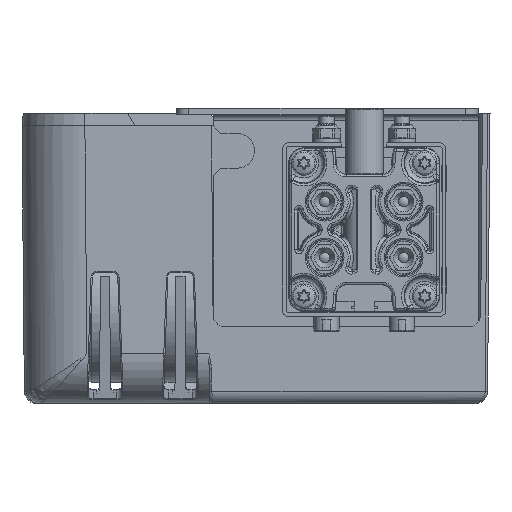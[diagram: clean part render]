
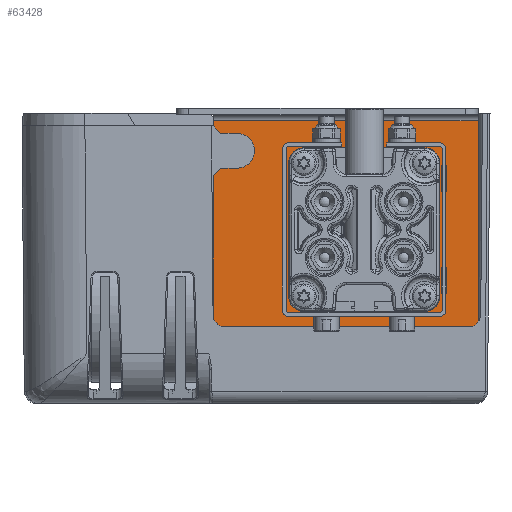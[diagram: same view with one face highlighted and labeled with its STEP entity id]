
A CAD part, left-side view. The second image highlights one B-rep face of the part: STEP entity #63428.
In plain terms, the highlighted planar face has unit normal (-1, 0, 0) as drawn and (0, 0, 1) by its records, which use the part's own axes.
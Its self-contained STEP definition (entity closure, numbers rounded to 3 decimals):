
#7460=LINE('',#131620,#11194);
#7463=LINE('',#131626,#11197);
#7466=LINE('',#131632,#11200);
#7469=LINE('',#131637,#11203);
#7472=LINE('',#131644,#11206);
#7475=LINE('',#131650,#11209);
#7478=LINE('',#131656,#11212);
#7481=LINE('',#131661,#11215);
#7484=LINE('',#131668,#11218);
#7487=LINE('',#131674,#11221);
#7490=LINE('',#131680,#11224);
#7493=LINE('',#131685,#11227);
#7508=LINE('',#131738,#11242);
#7509=LINE('',#131741,#11243);
#7510=LINE('',#131743,#11244);
#7511=LINE('',#131745,#11245);
#7512=LINE('',#131754,#11246);
#7513=LINE('',#131757,#11247);
#7514=LINE('',#131759,#11248);
#7515=LINE('',#131761,#11249);
#7516=LINE('',#131763,#11250);
#7517=LINE('',#131765,#11251);
#7518=LINE('',#131767,#11252);
#7519=LINE('',#131769,#11253);
#7520=LINE('',#131771,#11254);
#7521=LINE('',#131773,#11255);
#7522=LINE('',#131775,#11256);
#11194=VECTOR('',#77548,1000.);
#11197=VECTOR('',#77553,1000.);
#11200=VECTOR('',#77558,1000.);
#11203=VECTOR('',#77563,1000.);
#11206=VECTOR('',#77568,1000.);
#11209=VECTOR('',#77573,1000.);
#11212=VECTOR('',#77578,1000.);
#11215=VECTOR('',#77583,1000.);
#11218=VECTOR('',#77588,1000.);
#11221=VECTOR('',#77593,1000.);
#11224=VECTOR('',#77598,1000.);
#11227=VECTOR('',#77603,1000.);
#11242=VECTOR('',#77646,1000.);
#11243=VECTOR('',#77647,1000.);
#11244=VECTOR('',#77648,1000.);
#11245=VECTOR('',#77649,1000.);
#11246=VECTOR('',#77658,1000.);
#11247=VECTOR('',#77659,1000.);
#11248=VECTOR('',#77660,1000.);
#11249=VECTOR('',#77661,1000.);
#11250=VECTOR('',#77662,1000.);
#11251=VECTOR('',#77663,1000.);
#11252=VECTOR('',#77664,1000.);
#11253=VECTOR('',#77665,1000.);
#11254=VECTOR('',#77666,1000.);
#11255=VECTOR('',#77667,1000.);
#11256=VECTOR('',#77668,1000.);
#13587=PLANE('',#68007);
#22456=ORIENTED_EDGE('',*,*,#37333,.F.);
#22457=ORIENTED_EDGE('',*,*,#37330,.F.);
#22458=ORIENTED_EDGE('',*,*,#37339,.F.);
#22459=ORIENTED_EDGE('',*,*,#37336,.F.);
#22460=ORIENTED_EDGE('',*,*,#37345,.F.);
#22461=ORIENTED_EDGE('',*,*,#37342,.F.);
#22462=ORIENTED_EDGE('',*,*,#37351,.F.);
#22463=ORIENTED_EDGE('',*,*,#37348,.F.);
#22464=ORIENTED_EDGE('',*,*,#37357,.F.);
#22465=ORIENTED_EDGE('',*,*,#37354,.F.);
#22466=ORIENTED_EDGE('',*,*,#37363,.F.);
#22467=ORIENTED_EDGE('',*,*,#37360,.F.);
#22468=ORIENTED_EDGE('',*,*,#37388,.F.);
#22469=ORIENTED_EDGE('',*,*,#37389,.F.);
#22470=ORIENTED_EDGE('',*,*,#37390,.F.);
#22471=ORIENTED_EDGE('',*,*,#37391,.F.);
#22472=ORIENTED_EDGE('',*,*,#37392,.F.);
#22473=ORIENTED_EDGE('',*,*,#37393,.F.);
#22474=ORIENTED_EDGE('',*,*,#37394,.F.);
#22475=ORIENTED_EDGE('',*,*,#37395,.F.);
#22476=ORIENTED_EDGE('',*,*,#37396,.F.);
#22477=ORIENTED_EDGE('',*,*,#37397,.T.);
#22478=ORIENTED_EDGE('',*,*,#37398,.F.);
#22479=ORIENTED_EDGE('',*,*,#37399,.F.);
#22480=ORIENTED_EDGE('',*,*,#37400,.F.);
#22481=ORIENTED_EDGE('',*,*,#37401,.T.);
#22482=ORIENTED_EDGE('',*,*,#37402,.F.);
#22483=ORIENTED_EDGE('',*,*,#37403,.T.);
#22484=ORIENTED_EDGE('',*,*,#37404,.F.);
#22485=ORIENTED_EDGE('',*,*,#37405,.T.);
#22486=ORIENTED_EDGE('',*,*,#37406,.F.);
#22487=ORIENTED_EDGE('',*,*,#37407,.F.);
#37330=EDGE_CURVE('',#45380,#45381,#7460,.T.);
#37333=EDGE_CURVE('',#45381,#45383,#7463,.T.);
#37336=EDGE_CURVE('',#45383,#45385,#7466,.T.);
#37339=EDGE_CURVE('',#45385,#45380,#7469,.T.);
#37342=EDGE_CURVE('',#45388,#45389,#7472,.T.);
#37345=EDGE_CURVE('',#45389,#45391,#7475,.T.);
#37348=EDGE_CURVE('',#45391,#45393,#7478,.T.);
#37351=EDGE_CURVE('',#45393,#45388,#7481,.T.);
#37354=EDGE_CURVE('',#45396,#45397,#7484,.T.);
#37357=EDGE_CURVE('',#45397,#45399,#7487,.T.);
#37360=EDGE_CURVE('',#45399,#45401,#7490,.T.);
#37363=EDGE_CURVE('',#45401,#45396,#7493,.T.);
#37388=EDGE_CURVE('',#45426,#45427,#7508,.T.);
#37389=EDGE_CURVE('',#45428,#45426,#7509,.T.);
#37390=EDGE_CURVE('',#45429,#45428,#7510,.T.);
#37391=EDGE_CURVE('',#45427,#45429,#7511,.T.);
#37392=EDGE_CURVE('',#45430,#45430,#49953,.T.);
#37393=EDGE_CURVE('',#45431,#45431,#49954,.T.);
#37394=EDGE_CURVE('',#45432,#45432,#49955,.T.);
#37395=EDGE_CURVE('',#45433,#45433,#49956,.T.);
#37396=EDGE_CURVE('',#45434,#45435,#7512,.T.);
#37397=EDGE_CURVE('',#45434,#45436,#7513,.F.);
#37398=EDGE_CURVE('',#45437,#45436,#7514,.T.);
#37399=EDGE_CURVE('',#45438,#45437,#7515,.T.);
#37400=EDGE_CURVE('',#45439,#45438,#7516,.T.);
#37401=EDGE_CURVE('',#45439,#45440,#7517,.T.);
#37402=EDGE_CURVE('',#45441,#45440,#7518,.T.);
#37403=EDGE_CURVE('',#45441,#45442,#7519,.T.);
#37404=EDGE_CURVE('',#45443,#45442,#7520,.T.);
#37405=EDGE_CURVE('',#45443,#45444,#7521,.F.);
#37406=EDGE_CURVE('',#45445,#45444,#7522,.T.);
#37407=EDGE_CURVE('',#45435,#45445,#49957,.F.);
#45380=VERTEX_POINT('',#131619);
#45381=VERTEX_POINT('',#131621);
#45383=VERTEX_POINT('',#131627);
#45385=VERTEX_POINT('',#131633);
#45388=VERTEX_POINT('',#131643);
#45389=VERTEX_POINT('',#131645);
#45391=VERTEX_POINT('',#131651);
#45393=VERTEX_POINT('',#131657);
#45396=VERTEX_POINT('',#131667);
#45397=VERTEX_POINT('',#131669);
#45399=VERTEX_POINT('',#131675);
#45401=VERTEX_POINT('',#131681);
#45426=VERTEX_POINT('',#131739);
#45427=VERTEX_POINT('',#131740);
#45428=VERTEX_POINT('',#131742);
#45429=VERTEX_POINT('',#131744);
#45430=VERTEX_POINT('',#131747);
#45431=VERTEX_POINT('',#131749);
#45432=VERTEX_POINT('',#131751);
#45433=VERTEX_POINT('',#131753);
#45434=VERTEX_POINT('',#131755);
#45435=VERTEX_POINT('',#131756);
#45436=VERTEX_POINT('',#131758);
#45437=VERTEX_POINT('',#131760);
#45438=VERTEX_POINT('',#131762);
#45439=VERTEX_POINT('',#131764);
#45440=VERTEX_POINT('',#131766);
#45441=VERTEX_POINT('',#131768);
#45442=VERTEX_POINT('',#131770);
#45443=VERTEX_POINT('',#131772);
#45444=VERTEX_POINT('',#131774);
#45445=VERTEX_POINT('',#131776);
#49953=CIRCLE('',#68008,3.4);
#49954=CIRCLE('',#68009,3.4);
#49955=CIRCLE('',#68010,3.4);
#49956=CIRCLE('',#68011,12.5);
#49957=CIRCLE('',#68012,6.9);
#53046=EDGE_LOOP('',(#22456,#22457,#22458,#22459));
#53047=EDGE_LOOP('',(#22460,#22461,#22462,#22463));
#53048=EDGE_LOOP('',(#22464,#22465,#22466,#22467));
#53049=EDGE_LOOP('',(#22468,#22469,#22470,#22471));
#53050=EDGE_LOOP('',(#22472));
#53051=EDGE_LOOP('',(#22473));
#53052=EDGE_LOOP('',(#22474));
#53053=EDGE_LOOP('',(#22475));
#53054=EDGE_LOOP('',(#22476,#22477,#22478,#22479,#22480,#22481,#22482,#22483,
#22484,#22485,#22486,#22487));
#57486=FACE_BOUND('',#53046,.T.);
#57487=FACE_BOUND('',#53047,.T.);
#57488=FACE_BOUND('',#53048,.T.);
#57489=FACE_BOUND('',#53049,.T.);
#57490=FACE_BOUND('',#53050,.T.);
#57491=FACE_BOUND('',#53051,.T.);
#57492=FACE_BOUND('',#53052,.T.);
#57493=FACE_BOUND('',#53053,.T.);
#57494=FACE_BOUND('',#53054,.T.);
#63428=ADVANCED_FACE('',(#57486,#57487,#57488,#57489,#57490,#57491,#57492,
#57493,#57494),#13587,.F.);
#68007=AXIS2_PLACEMENT_3D('',#131737,#77644,#77645);
#68008=AXIS2_PLACEMENT_3D('',#131746,#77650,#77651);
#68009=AXIS2_PLACEMENT_3D('',#131748,#77652,#77653);
#68010=AXIS2_PLACEMENT_3D('',#131750,#77654,#77655);
#68011=AXIS2_PLACEMENT_3D('',#131752,#77656,#77657);
#68012=AXIS2_PLACEMENT_3D('',#131777,#77669,#77670);
#77548=DIRECTION('',(0.,-1.,0.));
#77553=DIRECTION('',(1.,0.,0.));
#77558=DIRECTION('',(0.,1.,0.));
#77563=DIRECTION('',(-1.,0.,0.));
#77568=DIRECTION('',(0.,-1.,0.));
#77573=DIRECTION('',(1.,0.,0.));
#77578=DIRECTION('',(0.,1.,0.));
#77583=DIRECTION('',(-1.,0.,0.));
#77588=DIRECTION('',(0.,-1.,0.));
#77593=DIRECTION('',(1.,0.,0.));
#77598=DIRECTION('',(0.,1.,0.));
#77603=DIRECTION('',(-1.,0.,0.));
#77644=DIRECTION('',(0.,0.,-1.));
#77645=DIRECTION('',(-1.,0.,0.));
#77646=DIRECTION('',(1.,0.,0.));
#77647=DIRECTION('',(0.,-1.,0.));
#77648=DIRECTION('',(-1.,0.,0.));
#77649=DIRECTION('',(0.,1.,0.));
#77650=DIRECTION('',(0.,0.,1.));
#77651=DIRECTION('',(1.,0.,0.));
#77652=DIRECTION('',(0.,0.,1.));
#77653=DIRECTION('',(1.,0.,0.));
#77654=DIRECTION('',(0.,0.,1.));
#77655=DIRECTION('',(1.,0.,0.));
#77656=DIRECTION('',(0.,0.,1.));
#77657=DIRECTION('',(1.,0.,0.));
#77658=DIRECTION('',(1.,0.,0.));
#77659=DIRECTION('',(0.707,0.707,0.));
#77660=DIRECTION('',(0.,1.,0.));
#77661=DIRECTION('',(-1.,0.,0.));
#77662=DIRECTION('',(0.,1.,0.));
#77663=DIRECTION('',(1.,0.,0.));
#77664=DIRECTION('',(0.,-1.,0.));
#77665=DIRECTION('',(-1.,0.,0.));
#77666=DIRECTION('',(0.,1.,0.));
#77667=DIRECTION('',(-0.707,0.707,0.));
#77668=DIRECTION('',(-1.,0.,0.));
#77669=DIRECTION('',(0.,0.,-1.));
#77670=DIRECTION('',(-1.,0.,0.));
#131619=CARTESIAN_POINT('',(87.575,0.5,2.5));
#131620=CARTESIAN_POINT('',(87.575,0.5,2.5));
#131621=CARTESIAN_POINT('',(87.575,-9.85,2.5));
#131626=CARTESIAN_POINT('',(87.575,-9.85,2.5));
#131627=CARTESIAN_POINT('',(89.425,-9.85,2.5));
#131632=CARTESIAN_POINT('',(89.425,-9.85,2.5));
#131633=CARTESIAN_POINT('',(89.425,0.5,2.5));
#131637=CARTESIAN_POINT('',(89.425,0.5,2.5));
#131643=CARTESIAN_POINT('',(87.575,40.85,2.5));
#131644=CARTESIAN_POINT('',(87.575,40.85,2.5));
#131645=CARTESIAN_POINT('',(87.575,30.5,2.5));
#131650=CARTESIAN_POINT('',(87.575,30.5,2.5));
#131651=CARTESIAN_POINT('',(89.425,30.5,2.5));
#131656=CARTESIAN_POINT('',(89.425,30.5,2.5));
#131657=CARTESIAN_POINT('',(89.425,40.85,2.5));
#131661=CARTESIAN_POINT('',(89.425,40.85,2.5));
#131667=CARTESIAN_POINT('',(24.075,0.5,2.5));
#131668=CARTESIAN_POINT('',(24.075,0.5,2.5));
#131669=CARTESIAN_POINT('',(24.075,-9.85,2.5));
#131674=CARTESIAN_POINT('',(24.075,-9.85,2.5));
#131675=CARTESIAN_POINT('',(25.925,-9.85,2.5));
#131680=CARTESIAN_POINT('',(25.925,-9.85,2.5));
#131681=CARTESIAN_POINT('',(25.925,0.5,2.5));
#131685=CARTESIAN_POINT('',(25.925,0.5,2.5));
#131737=CARTESIAN_POINT('',(102.,62.25,2.5));
#131738=CARTESIAN_POINT('',(24.075,30.5,2.5));
#131739=CARTESIAN_POINT('',(24.075,30.5,2.5));
#131740=CARTESIAN_POINT('',(25.925,30.5,2.5));
#131741=CARTESIAN_POINT('',(24.075,40.85,2.5));
#131742=CARTESIAN_POINT('',(24.075,40.85,2.5));
#131743=CARTESIAN_POINT('',(25.925,40.85,2.5));
#131744=CARTESIAN_POINT('',(25.925,40.85,2.5));
#131745=CARTESIAN_POINT('',(25.925,30.5,2.5));
#131746=CARTESIAN_POINT('',(56.75,-9.9,2.5));
#131747=CARTESIAN_POINT('',(60.15,-9.9,2.5));
#131748=CARTESIAN_POINT('',(78.747,28.2,2.5));
#131749=CARTESIAN_POINT('',(82.147,28.2,2.5));
#131750=CARTESIAN_POINT('',(34.753,28.2,2.5));
#131751=CARTESIAN_POINT('',(38.153,28.2,2.5));
#131752=CARTESIAN_POINT('',(56.75,15.5,2.5));
#131753=CARTESIAN_POINT('',(69.25,15.5,2.5));
#131754=CARTESIAN_POINT('',(102.,39.95,2.5));
#131755=CARTESIAN_POINT('',(-0.25,39.95,2.5));
#131756=CARTESIAN_POINT('',(6.25,39.95,2.5));
#131757=CARTESIAN_POINT('',(-3.25,36.95,2.5));
#131758=CARTESIAN_POINT('',(-3.25,36.95,2.5));
#131759=CARTESIAN_POINT('',(-3.25,62.25,2.5));
#131760=CARTESIAN_POINT('',(-3.25,-43.25,2.5));
#131761=CARTESIAN_POINT('',(0.,-43.25,2.5));
#131762=CARTESIAN_POINT('',(0.,-43.25,2.5));
#131763=CARTESIAN_POINT('',(0.,-48.25,2.5));
#131764=CARTESIAN_POINT('',(0.,-43.3,2.5));
#131765=CARTESIAN_POINT('',(-77.143,-43.3,2.5));
#131766=CARTESIAN_POINT('',(102.,-43.3,2.5));
#131767=CARTESIAN_POINT('',(102.,62.25,2.5));
#131768=CARTESIAN_POINT('',(102.,58.75,2.5));
#131769=CARTESIAN_POINT('',(312.5,58.75,2.5));
#131770=CARTESIAN_POINT('',(-3.25,58.75,2.5));
#131771=CARTESIAN_POINT('',(-3.25,62.25,2.5));
#131772=CARTESIAN_POINT('',(-3.25,56.75,2.5));
#131773=CARTESIAN_POINT('',(-0.25,53.75,2.5));
#131774=CARTESIAN_POINT('',(-0.25,53.75,2.5));
#131775=CARTESIAN_POINT('',(102.,53.75,2.5));
#131776=CARTESIAN_POINT('',(6.25,53.75,2.5));
#131777=CARTESIAN_POINT('',(6.25,46.85,2.5));
